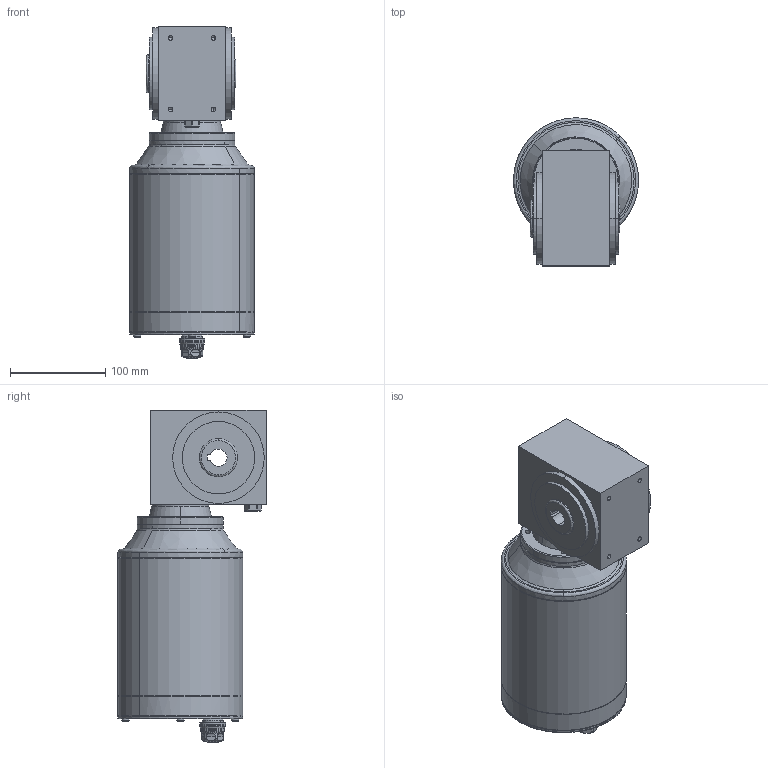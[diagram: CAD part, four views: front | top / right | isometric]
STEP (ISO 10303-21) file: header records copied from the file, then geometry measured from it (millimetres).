
FILE_DESCRIPTION (( 'STEP AP203' ), '1' );
FILE_NAME ('ESD40- K63.STEP', '2021-02-09T08:07:43', ( '' ), ( '' ), 'SwSTEP 2.0', 'SolidWorks 2012', '' );
FILE_SCHEMA (( 'CONFIG_CONTROL_DESIGN' ));
Length unit declared in the file: millimetre
Products named in the file (5): ESD040 - 63B14a; ESD40- K63; MK63_B14a; M16 -ｦｦﾎ; 63A4 B14
Assembly tree (4 placements, depth 3):
  ESD40- K63
    ESD040 - 63B14a
    MK63_B14a
      M16 -ｦｦﾎ
      63A4 B14
Bounding box: 131 x 155.5 x 348.12 mm (x, y, z)
Volume: 3625539.4 mm3; surface area: 196169.8 mm2
Topology: 4 solids, 5 shells, 365 faces, 918 edges, 566 vertices
Faces by surface type: cylinder 130, cone 86, plane 84, bspline 49, torus 16
Entity records: 13925 total; most frequent: CARTESIAN_POINT 4845, DIRECTION 1899, ORIENTED_EDGE 1760, EDGE_CURVE 880, AXIS2_PLACEMENT_3D 797, VERTEX_POINT 566, CIRCLE 473, EDGE_LOOP 420
